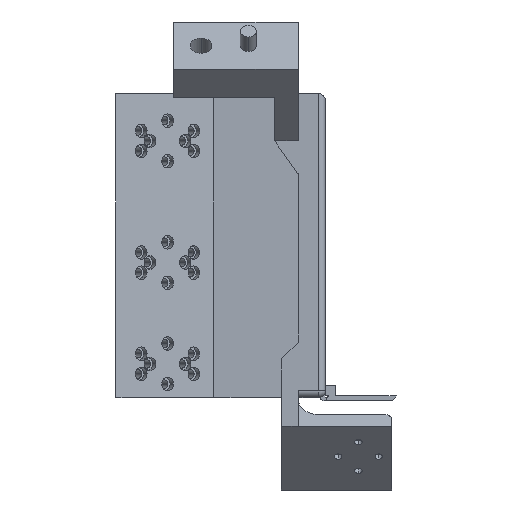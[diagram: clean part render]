
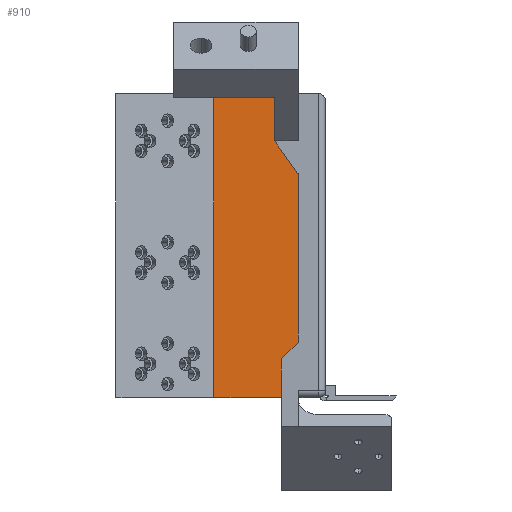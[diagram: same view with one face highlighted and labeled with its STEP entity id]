
A CAD part, left-side view. The second image highlights one B-rep face of the part: STEP entity #910.
In plain terms, the highlighted planar face has unit normal (-1, 0, 0).
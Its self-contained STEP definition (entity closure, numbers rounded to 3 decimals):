
#196 = EDGE_CURVE ( 'NONE', #4085, #6251, #4796, .T. ) ;
#299 = ORIENTED_EDGE ( 'NONE', *, *, #196, .T. ) ;
#510 = VECTOR ( 'NONE', #5372, 1000. ) ;
#841 = LINE ( 'NONE', #3162, #1479 ) ;
#910 = ADVANCED_FACE ( 'NONE', ( #1791 ), #4121, .T. ) ;
#1278 = DIRECTION ( 'NONE',  ( 0., 1., 0. ) ) ;
#1479 = VECTOR ( 'NONE', #5481, 1000. ) ;
#1542 = EDGE_CURVE ( 'NONE', #4085, #5302, #7451, .T. ) ;
#1791 = FACE_OUTER_BOUND ( 'NONE', #4694, .T. ) ;
#2299 = ORIENTED_EDGE ( 'NONE', *, *, #5362, .F. ) ;
#2438 = CARTESIAN_POINT ( 'NONE',  ( 15., 8., -45. ) ) ;
#2442 = CARTESIAN_POINT ( 'NONE',  ( 15., 32.992, 103.596 ) ) ;
#2511 = VERTEX_POINT ( 'NONE', #2438 ) ;
#3054 = ORIENTED_EDGE ( 'NONE', *, *, #6891, .F. ) ;
#3162 = CARTESIAN_POINT ( 'NONE',  ( 15., 8., 103.596 ) ) ;
#3561 = CARTESIAN_POINT ( 'NONE',  ( 15., 32.992, 45. ) ) ;
#3639 = ORIENTED_EDGE ( 'NONE', *, *, #1542, .F. ) ;
#4085 = VERTEX_POINT ( 'NONE', #3561 ) ;
#4121 = PLANE ( 'NONE',  #5107 ) ;
#4694 = EDGE_LOOP ( 'NONE', ( #3639, #299, #2299, #3054 ) ) ;
#4729 = VECTOR ( 'NONE', #6254, 1000. ) ;
#4739 = CARTESIAN_POINT ( 'NONE',  ( 15., 8., 45. ) ) ;
#4796 = LINE ( 'NONE', #2442, #510 ) ;
#4952 = VECTOR ( 'NONE', #1278, 1000. ) ;
#5107 = AXIS2_PLACEMENT_3D ( 'NONE', #7310, #6662, #7241 ) ;
#5302 = VERTEX_POINT ( 'NONE', #4739 ) ;
#5362 = EDGE_CURVE ( 'NONE', #2511, #6251, #7490, .T. ) ;
#5372 = DIRECTION ( 'NONE',  ( 0., 0., -1. ) ) ;
#5481 = DIRECTION ( 'NONE',  ( 0., 0., -1. ) ) ;
#5767 = CARTESIAN_POINT ( 'NONE',  ( 15., 32.992, 45. ) ) ;
#6251 = VERTEX_POINT ( 'NONE', #7475 ) ;
#6254 = DIRECTION ( 'NONE',  ( 0., -1., 0. ) ) ;
#6452 = CARTESIAN_POINT ( 'NONE',  ( 15., 32.992, -45. ) ) ;
#6662 = DIRECTION ( 'NONE',  ( -1., 0., 0. ) ) ;
#6891 = EDGE_CURVE ( 'NONE', #5302, #2511, #841, .T. ) ;
#7241 = DIRECTION ( 'NONE',  ( 0., -1., 0. ) ) ;
#7310 = CARTESIAN_POINT ( 'NONE',  ( 15., 32.992, 103.596 ) ) ;
#7451 = LINE ( 'NONE', #5767, #4729 ) ;
#7475 = CARTESIAN_POINT ( 'NONE',  ( 15., 32.992, -45. ) ) ;
#7490 = LINE ( 'NONE', #6452, #4952 ) ;
